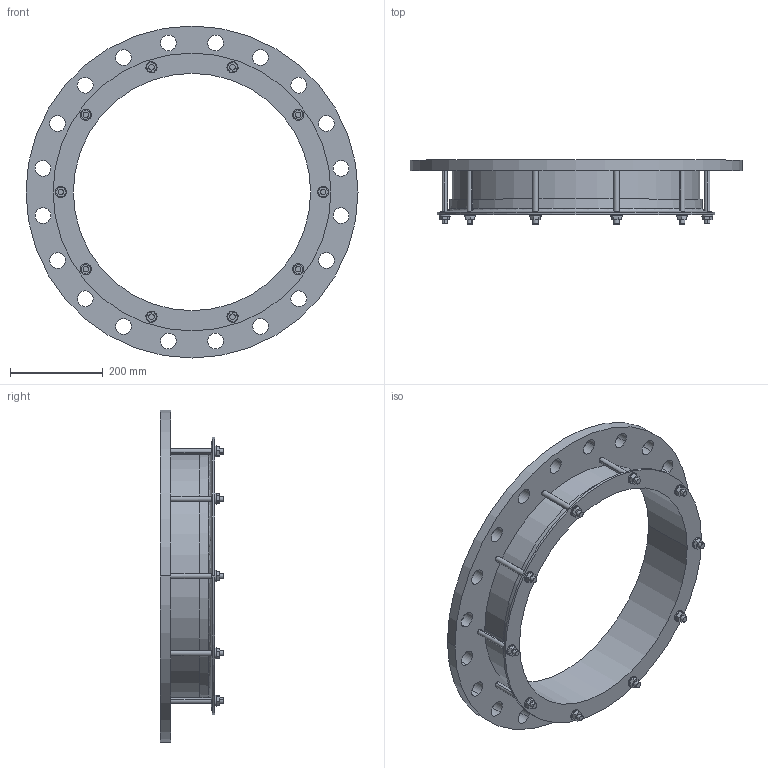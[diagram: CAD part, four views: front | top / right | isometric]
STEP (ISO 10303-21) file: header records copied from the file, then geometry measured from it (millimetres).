
FILE_DESCRIPTION((''),'2;1');
FILE_NAME('508X500PN16','2019-01-16T',('mfairey'),('Glynwed Pipe Systems'),'CREO PARAMETRIC BY PTC INC, 2016130','CREO PARAMETRIC BY PTC INC, 2016130','');
FILE_SCHEMA(('CONFIG_CONTROL_DESIGN'));
Length unit declared in the file: millimetre
Products named in the file (1): 508X500PN16
Bounding box: 715 x 137.45 x 715 mm (x, y, z)
Volume: 6599691 mm3; surface area: 952587.4 mm2
Topology: 1 solids, 1 shells, 208 faces, 548 edges, 364 vertices
Faces by surface type: cylinder 108, plane 94, cone 4, torus 2
Entity records: 7186 total; most frequent: CARTESIAN_POINT 1740, DIRECTION 1132, ORIENTED_EDGE 1096, EDGE_CURVE 548, AXIS2_PLACEMENT_3D 420, VERTEX_POINT 364, VECTOR 292, LINE 292
